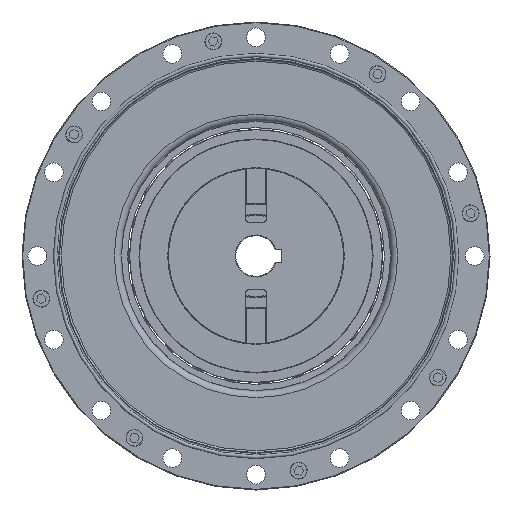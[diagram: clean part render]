
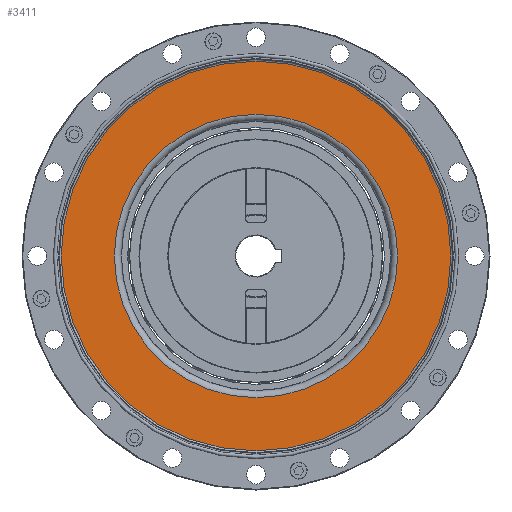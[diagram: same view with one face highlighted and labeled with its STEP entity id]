
A CAD part, left-side view. The second image highlights one B-rep face of the part: STEP entity #3411.
In plain terms, the highlighted planar face has unit normal (-1, 0, 0).
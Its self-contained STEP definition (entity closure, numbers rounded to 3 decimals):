
#695 = CARTESIAN_POINT ( 'NONE',  ( -86.21, 0., 114.899 ) ) ;
#2346 = PLANE ( 'NONE',  #19098 ) ;
#3411 = ADVANCED_FACE ( 'NONE', ( #5414, #20881 ), #2346, .F. ) ;
#4113 = EDGE_LOOP ( 'NONE', ( #9868 ) ) ;
#4230 = DIRECTION ( 'NONE',  ( 1., 0., 0. ) ) ;
#5414 = FACE_BOUND ( 'NONE', #4113, .T. ) ;
#6110 = EDGE_CURVE ( 'NONE', #14717, #14717, #21374, .T. ) ;
#7703 = CARTESIAN_POINT ( 'NONE',  ( -86.21, 0., 0. ) ) ;
#9224 = CARTESIAN_POINT ( 'NONE',  ( -86.21, 0., 0. ) ) ;
#9574 = DIRECTION ( 'NONE',  ( 0., 0., 1. ) ) ;
#9868 = ORIENTED_EDGE ( 'NONE', *, *, #10496, .F. ) ;
#10496 = EDGE_CURVE ( 'NONE', #11165, #11165, #19306, .T. ) ;
#11115 = DIRECTION ( 'NONE',  ( 0., 0., 1. ) ) ;
#11165 = VERTEX_POINT ( 'NONE', #14307 ) ;
#14307 = CARTESIAN_POINT ( 'NONE',  ( -86.21, 0., 83.556 ) ) ;
#14566 = ORIENTED_EDGE ( 'NONE', *, *, #6110, .T. ) ;
#14717 = VERTEX_POINT ( 'NONE', #695 ) ;
#15224 = AXIS2_PLACEMENT_3D ( 'NONE', #7703, #20748, #9574 ) ;
#15404 = CARTESIAN_POINT ( 'NONE',  ( -86.21, 0., 0. ) ) ;
#16454 = EDGE_LOOP ( 'NONE', ( #14566 ) ) ;
#17249 = DIRECTION ( 'NONE',  ( 0., 0., -1. ) ) ;
#19098 = AXIS2_PLACEMENT_3D ( 'NONE', #15404, #4230, #17249 ) ;
#19306 = CIRCLE ( 'NONE', #15224, 83.556 ) ;
#20748 = DIRECTION ( 'NONE',  ( -1., 0., 0. ) ) ;
#20881 = FACE_OUTER_BOUND ( 'NONE', #16454, .T. ) ;
#21374 = CIRCLE ( 'NONE', #22874, 114.899 ) ;
#22284 = DIRECTION ( 'NONE',  ( -1., 0., 0. ) ) ;
#22874 = AXIS2_PLACEMENT_3D ( 'NONE', #9224, #22284, #11115 ) ;
